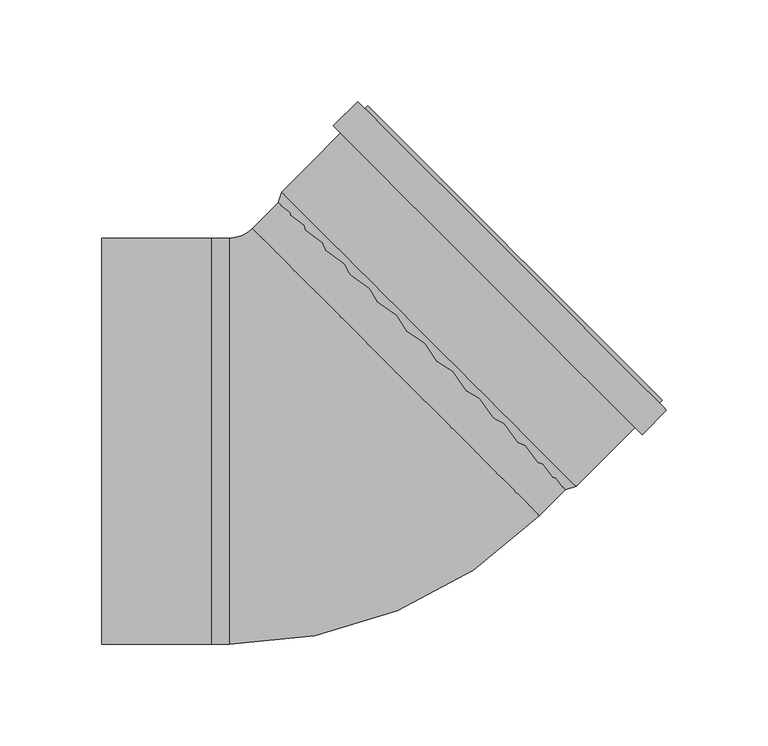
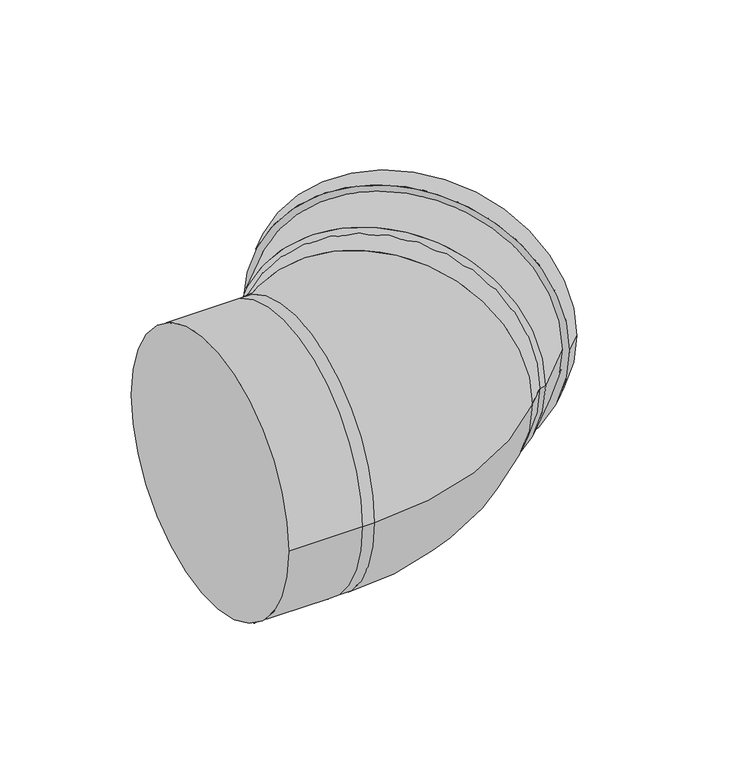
"""IFC4 building model written with IfcOpenShell, lengths in millimetres: duct fitting geometry, RSFen_DUF_UN_Twinline Bend_M&G : ø130 - 150 - 200."""

from ifc_helpers import new_model, si_unit, point, frame, origin, origin_2d, place, context, project, spatial, polyline, circle_curve, ellipse_curve, trimmed, segment, composite_curve, outline, extrude, source, transform, mapped, element, save
from ifc_brep_helpers import plane_surface, cylinder_surface, revolved_surface, advanced_brep


def duct_fitting_ab07d6e0(model_context):
    return source(origin(), model_context, "Body", "SolidModel", [
        advanced_brep(
        [(-111.0, 100.0, 0.0), (-111.0, -100.0, 0.0), (-57.0, 100.0, 0.0), (-57.0, -100.0, 0.0), (-48.0487732, -100.0, 0.0), (-48.0487732, 100.0, 0.0), (104.6862915, -36.7350647, 0.0), (-36.7350647, 104.6862915, 0.0), (120.9152596, -20.5060967, 0.0), (50.2045815, 50.2045815, 100.0), (-20.5060967, 120.9152596, 0.0), (50.2045815, 50.2045815, -100.0), (51.618795, 51.618795, -100.0), (51.618795, 51.618795, 100.0)],
        [
            (0, 1, circle_curve(frame((-111.0, 0.0, 0.0), z_axis=(-1.0, 0.0, 0.0), x_axis=(0.0, -1.0, 0.0)), 100.0)),
            (1, 0, circle_curve(frame((-111.0, 0.0, 0.0), z_axis=(-1.0, 0.0, 0.0), x_axis=(0.0, -1.0, 0.0)), 100.0)),
            (0, 2),
            (2, 3, circle_curve(frame((-57.0, 0.0, 0.0), z_axis=(-1.0, 0.0, 0.0), x_axis=(0.0, -1.0, 0.0)), 100.0)),
            (3, 1),
            (3, 2, circle_curve(frame((-57.0, 0.0, 0.0), z_axis=(-1.0, 0.0, 0.0), x_axis=(0.0, -1.0, 0.0)), 100.0)),
            (3, 4),
            (4, 5, circle_curve(frame((-48.0487732, 0.0, 0.0), z_axis=(-1.0, 0.0, 0.0), x_axis=(0.0, 1.0, 0.0)), 100.0)),
            (5, 2),
            (5, 4, circle_curve(frame((-48.0487732, 0.0, 0.0), z_axis=(-1.0, 0.0, 0.0), x_axis=(0.0, 1.0, 0.0)), 100.0)),
            (4, 6, circle_curve(frame((-48.0487732, 116.0, 0.0), z_axis=(0.0, 0.0, 1.0), x_axis=(0.0, -1.0, 0.0)), 216.0)),
            (6, 7, circle_curve(frame((33.9756134, 33.9756134, 0.0), z_axis=(-0.7071067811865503, -0.7071067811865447, 0.0), x_axis=(-0.7071067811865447, 0.7071067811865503, 0.0)), 100.0)),
            (7, 5, circle_curve(frame((-48.0487732, 116.0, 0.0), z_axis=(0.0, 0.0, -1.0), x_axis=(0.0, -1.0, 0.0)), 16.0)),
            (7, 6, circle_curve(frame((33.9756134, 33.9756134, 0.0), z_axis=(-0.7071067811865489, -0.7071067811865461, 0.0), x_axis=(-0.7071067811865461, 0.7071067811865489, 0.0)), 100.0)),
            (6, 8),
            (8, 9, circle_curve(frame((50.2045815, 50.2045815, 0.0), z_axis=(-0.7071067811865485, -0.7071067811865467, 0.0), x_axis=(-0.7071067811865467, 0.7071067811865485, 0.0)), 100.0)),
            (9, 10, circle_curve(frame((50.2045815, 50.2045815, 0.0), z_axis=(-0.7071067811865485, -0.7071067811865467, 0.0), x_axis=(-0.7071067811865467, 0.7071067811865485, 0.0)), 100.0)),
            (10, 7),
            (10, 11, circle_curve(frame((50.2045815, 50.2045815, 0.0), z_axis=(-0.7071067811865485, -0.7071067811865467, 0.0), x_axis=(-0.7071067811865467, 0.7071067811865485, 0.0)), 100.0)),
            (11, 8, circle_curve(frame((50.2045815, 50.2045815, 0.0), z_axis=(-0.7071067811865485, -0.7071067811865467, 0.0), x_axis=(-0.7071067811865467, 0.7071067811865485, 0.0)), 100.0)),
            (12, 13, circle_curve(frame((51.618795, 51.618795, 0.0), z_axis=(0.7071067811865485, 0.7071067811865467, 0.0), x_axis=(0.0, 0.0, 1.0)), 100.0)),
            (13, 12, circle_curve(frame((51.618795, 51.618795, 0.0), z_axis=(0.7071067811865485, 0.7071067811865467, 0.0), x_axis=(0.0, 0.0, 1.0)), 100.0)),
            (12, 11),
            (9, 13),
        ],
        [
            plane_surface(frame((-111.0, -100.0, 0.0), z_axis=(-1.0, 0.0, 0.0), x_axis=(0.0, 0.0, 1.0))),
            cylinder_surface(frame((-57.0, 0.0, 0.0), z_axis=(-1.0, 0.0, 0.0), x_axis=(0.0, -1.0, 0.0)), 100.0),
            cylinder_surface(frame((-57.0, 0.0, 0.0), z_axis=(-1.0, 0.0, 0.0), x_axis=(0.0, 1.0, 0.0)), 100.0),
            revolved_surface(trimmed(ellipse_curve(frame((-48.0487732, 0.0, 0.0), z_axis=(-1.0, 0.0, 0.0), x_axis=(0.0, 1.0, 0.0)), 100.0, 100.0), [point((-48.0487732, -100.0, 0.0))], [point((-48.0487732, 100.0, 0.0))], True, "CARTESIAN"), (-48.0487732, 116.0, 0.0), (0.0, 0.0, 1.0)),
            revolved_surface(trimmed(ellipse_curve(frame((-48.0487732, 0.0, 0.0), z_axis=(-1.0, 0.0, 0.0), x_axis=(0.0, 1.0, 0.0)), 100.0, 100.0), [point((-48.0487732, 100.0, 0.0))], [point((-48.0487732, -100.0, 0.0))], True, "CARTESIAN"), (-48.0487732, 116.0, 0.0), (0.0, 0.0, 1.0)),
            cylinder_surface(frame((33.9756134, 33.9756134, 0.0), z_axis=(-0.7071067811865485, -0.7071067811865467, 0.0), x_axis=(-0.7071067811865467, 0.7071067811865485, 0.0)), 100.0),
            plane_surface(frame((51.618795, 51.618795, 100.0), z_axis=(0.7071067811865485, 0.7071067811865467, 0.0), x_axis=(0.7071067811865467, -0.7071067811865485, 0.0))),
            cylinder_surface(frame((50.2045815, 50.2045815, 0.0), z_axis=(0.7071067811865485, 0.7071067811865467, 0.0), x_axis=(0.0, 0.0, 1.0)), 100.0),
        ],
        [
            (0, [[1, 2]]),
            (1, [[-1, 3, 4, 5]]),
            (1, [[-2, -5, 6, -3]]),
            (2, [[7, 8, 9, -6]]),
            (2, [[-7, -4, -9, 10]]),
            (3, [[-8, 11, 12, 13]]),
            (4, [[-10, -13, 14, -11]]),
            (5, [[-12, 15, 16, 17, 18]]),
            (5, [[-14, -18, 19, 20, -15]]),
            (6, [[21, 22]]),
            (7, [[-21, 23, -19, -17, 24]]),
            (7, [[-22, -24, -16, -20, -23]]),
        ],
    ),
        extrude(outline(composite_curve([segment(trimmed(circle_curve(origin_2d(), 107.5), [point((107.5, 0.0))], [point((-107.5, 0.0))], False, "CARTESIAN"), True, "CONTINUOUS"), segment(trimmed(circle_curve(origin_2d(), 107.5), [point((-107.5, 0.0))], [point((107.5, 0.0))], False, "CARTESIAN"), True, "CONTINUOUS")], self_intersect=False), holes=[composite_curve([segment(trimmed(circle_curve(origin_2d(), 102.5), [point((-102.5, 0.0))], [point((102.5, 0.0))], True, "CARTESIAN"), True, "CONTINUOUS"), segment(trimmed(circle_curve(origin_2d(), 102.5), [point((102.5, 0.0))], [point((-102.5, 0.0))], True, "CARTESIAN"), True, "CONTINUOUS")], self_intersect=False)]), frame((79.1959595, 79.1959595, 0.0), z_axis=(0.7071067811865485, 0.7071067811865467, 0.0), x_axis=(0.7071067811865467, -0.7071067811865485, 0.0)), (0.0, 0.0, 1.0), 17.0),
        advanced_brep(
        [(-22.2738636, 122.6830265, 0.0), (122.6830265, -22.2738636, 0.0), (165.1094334, 20.1525433, 0.0), (20.1525433, 165.1094334, 0.0), (-24.0416306, 117.3797257, 0.0), (117.3797257, -24.0416306, 0.0), (21.9203102, 163.3416665, 0.0), (163.3416665, 21.9203102, 0.0)],
        [
            (0, 1, circle_curve(frame((50.2045815, 50.2045815, 0.0), z_axis=(0.7071067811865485, 0.7071067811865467, 0.0), x_axis=(0.7071067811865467, -0.7071067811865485, 0.0)), 102.5)),
            (1, 2),
            (2, 3, circle_curve(frame((92.6309883, 92.6309883, 0.0), z_axis=(-0.7071067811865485, -0.7071067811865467, 0.0), x_axis=(0.7071067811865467, -0.7071067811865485, 0.0)), 102.5)),
            (3, 0),
            (4, 5, circle_curve(frame((46.6690476, 46.6690476, 0.0), z_axis=(0.7071067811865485, 0.7071067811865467, 0.0), x_axis=(0.7071067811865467, -0.7071067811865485, 0.0)), 100.0)),
            (5, 1),
            (0, 4),
            (6, 7, circle_curve(frame((92.6309883, 92.6309883, 0.0), z_axis=(0.7071067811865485, 0.7071067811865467, 0.0), x_axis=(0.7071067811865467, -0.7071067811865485, 0.0)), 100.0)),
            (7, 5),
            (4, 6),
            (2, 3, circle_curve(frame((92.6309883, 92.6309883, 0.0), z_axis=(0.7071067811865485, 0.7071067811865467, 0.0), x_axis=(-0.7071067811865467, 0.7071067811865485, 0.0)), 102.5)),
            (6, 7, circle_curve(frame((92.6309883, 92.6309883, 0.0), z_axis=(-0.7071067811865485, -0.7071067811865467, 0.0), x_axis=(-0.7071067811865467, 0.7071067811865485, 0.0)), 100.0)),
            (1, 0, circle_curve(frame((50.2045815, 50.2045815, 0.0), z_axis=(0.7071067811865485, 0.7071067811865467, 0.0), x_axis=(-0.7071067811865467, 0.7071067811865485, 0.0)), 102.5)),
            (5, 4, circle_curve(frame((46.6690476, 46.6690476, 0.0), z_axis=(0.7071067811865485, 0.7071067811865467, 0.0), x_axis=(-0.7071067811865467, 0.7071067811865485, 0.0)), 100.0)),
        ],
        [
            cylinder_surface(frame((50.2045815, 50.2045815, 0.0), z_axis=(-0.7071067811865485, -0.7071067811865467, 0.0), x_axis=(0.7071067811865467, -0.7071067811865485, 0.0)), 102.5),
            revolved_surface(polyline([(122.6830265, -22.2738636, 0.0), (117.3797257, -24.0416306, 0.0)]), (50.2045815, 50.2045815, 0.0), (-0.7071067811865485, -0.7071067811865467, 0.0)),
            revolved_surface(polyline([(117.37972566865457, -24.04163056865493, 0.0), (163.3416664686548, 21.920310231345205, 0.0)]), (50.2045815, 50.2045815, 0.0), (-0.7071067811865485, -0.7071067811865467, 0.0)),
            plane_surface(frame((92.6309883, 92.6309883, 0.0), z_axis=(0.7071067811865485, 0.7071067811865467, 0.0), x_axis=(-0.7071067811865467, 0.7071067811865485, 0.0))),
            cylinder_surface(frame((50.2045815, 50.2045815, 0.0), z_axis=(-0.7071067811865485, -0.7071067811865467, 0.0), x_axis=(-0.7071067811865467, 0.7071067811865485, 0.0)), 102.5),
            revolved_surface(polyline([(-22.2738636, 122.6830265, 0.0), (-24.0416306, 117.3797257, 0.0)]), (50.2045815, 50.2045815, 0.0), (-0.7071067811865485, -0.7071067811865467, 0.0)),
            revolved_surface(polyline([(-24.041630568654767, 117.37972566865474, 0.0), (21.920310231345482, 163.3416664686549, 0.0)]), (50.2045815, 50.2045815, 0.0), (-0.7071067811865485, -0.7071067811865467, 0.0)),
        ],
        [
            (0, [[1, 2, 3, 4]]),
            (1, [[5, 6, -1, 7]]),
            (2, [[8, 9, -5, 10]]),
            (3, [[11, -3], [12, -8]]),
            (4, [[13, -4, -11, -2]]),
            (5, [[14, -7, -13, -6]]),
            (6, [[-12, -10, -14, -9]]),
        ],
    ),
    ])


if __name__ == "__main__":
    model = new_model("IFC4")
    model_context = context("Model", 3, world=origin())
    ifc_project = project(units=[si_unit("LENGTHUNIT", "METRE", prefix="MILLI")], contexts=[model_context])
    site = spatial("IfcSite", under=ifc_project)
    building = spatial("IfcBuilding", under=site)
    placement = place(None, origin())
    duct_fitting_shape = duct_fitting_ab07d6e0(model_context)
    element("IfcDuctFitting", 1, ObjectType="RSFen_DUF_UN_Twinline Bend_M&G : ø130 - 150 - 200", at=placement, inside=building, context=model_context, shape_type="MappedRepresentation", body=[
        mapped(duct_fitting_shape, transform((0.0, 0.0, 0.0), x_axis=(1.0, 0.0, 0.0), y_axis=(0.0, 1.0, 0.0), z_axis=(0.0, 0.0, 1.0))),
    ])
    save(model, "model.ifc")
